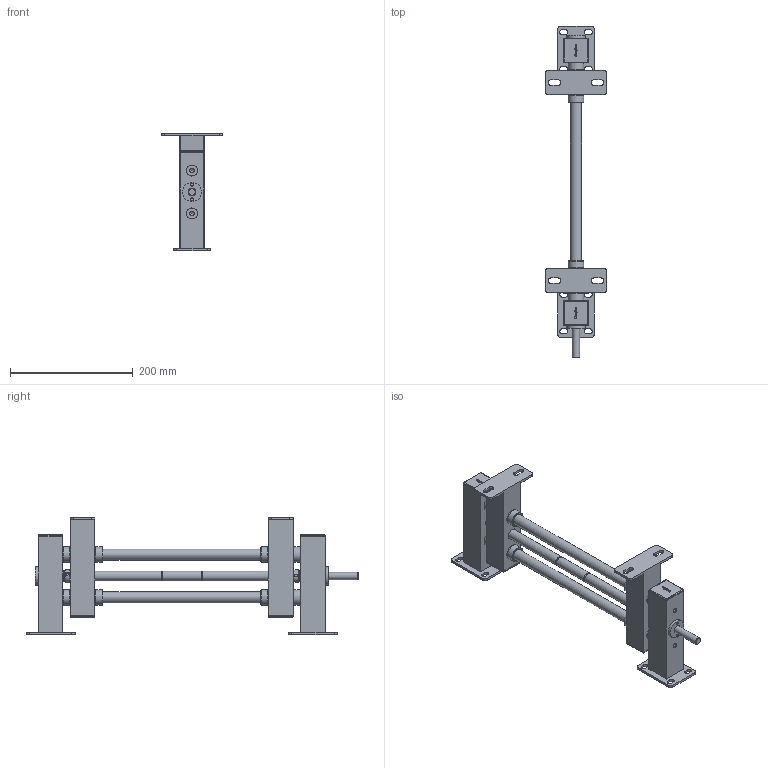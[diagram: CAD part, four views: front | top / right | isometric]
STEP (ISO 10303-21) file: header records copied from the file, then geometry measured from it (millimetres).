
FILE_DESCRIPTION((''),'2;1');
FILE_NAME('C:\Vault Klient\Projekt\Step\100-140_0-200mm.stp','2009-12-11T13:00:38',('Mathias'),(''),'Autodesk Inventor 2010','Autodesk Inventor 2010','');
FILE_SCHEMA(('CONFIG_CONTROL_DESIGN'));
Length unit declared in the file: millimetre
Products named in the file (1): 100-140_0-200mm
Bounding box: 100 x 541.5 x 192 mm (x, y, z)
Volume: 655803.6 mm3; surface area: 347776.1 mm2
Topology: 1 solids, 1 shells, 913 faces, 2286 edges, 1491 vertices
Faces by surface type: plane 470, bspline 258, cylinder 143, cone 26, sphere 16
Full cylindrical faces by diameter (mm): 5.1 x16, 12 x4, 12.3 x2, 16 x3, 18 x10, 19 x4, 20 x10, 23.9 x8, 25 x12, 31 x2
Entity records: 29230 total; most frequent: CARTESIAN_POINT 8774, ORIENTED_EDGE 4226, DIRECTION 3318, EDGE_CURVE 2113, VERTEX_POINT 1457, VECTOR 1280, LINE 1280, EDGE_LOOP 1232
